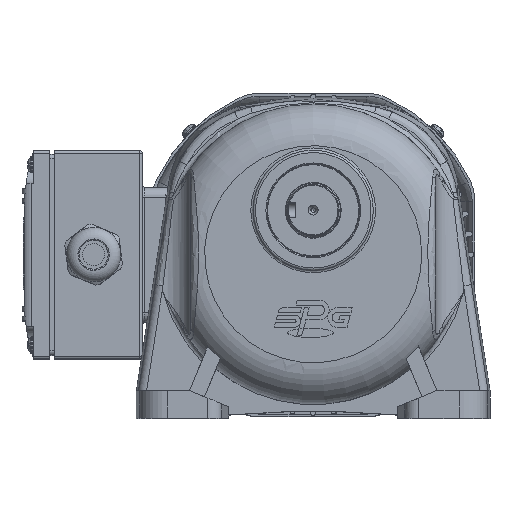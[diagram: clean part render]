
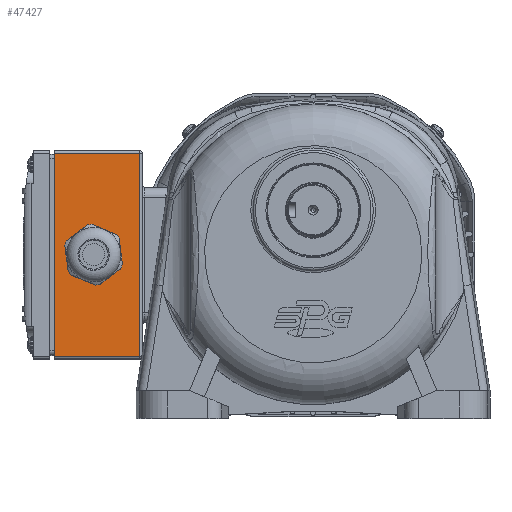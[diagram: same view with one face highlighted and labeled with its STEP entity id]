
A CAD part, top view. The second image highlights one B-rep face of the part: STEP entity #47427.
In plain terms, the highlighted planar face has unit normal (0, 0, 1).
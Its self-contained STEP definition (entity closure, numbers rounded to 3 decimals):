
#1262=LINE('',#70809,#3504);
#1286=LINE('',#70921,#3528);
#1287=LINE('',#70923,#3529);
#1288=LINE('',#70925,#3530);
#1289=LINE('',#70927,#3531);
#1290=LINE('',#70929,#3532);
#1707=LINE('',#72435,#3949);
#1709=LINE('',#72450,#3951);
#1711=LINE('',#72456,#3953);
#1712=LINE('',#72457,#3954);
#3504=VECTOR('',#56432,10.);
#3528=VECTOR('',#56534,10.);
#3529=VECTOR('',#56537,10.);
#3530=VECTOR('',#56540,10.);
#3531=VECTOR('',#56543,10.);
#3532=VECTOR('',#56546,10.);
#3949=VECTOR('',#57693,10.);
#3951=VECTOR('',#57715,10.);
#3953=VECTOR('',#57721,10.);
#3954=VECTOR('',#57722,10.);
#7162=FACE_BOUND('',#11648,.T.);
#8620=FACE_OUTER_BOUND('',#11647,.T.);
#11647=EDGE_LOOP('',(#30761,#30762,#30763,#30764));
#11648=EDGE_LOOP('',(#30765,#30766,#30767,#30768,#30769,#30770,#30771,#30772,
#30773,#30774,#30775,#30776));
#14624=CIRCLE('',#50211,13.);
#14626=CIRCLE('',#50214,13.);
#14628=CIRCLE('',#50217,13.);
#14630=CIRCLE('',#50220,13.);
#14632=CIRCLE('',#50223,13.);
#14634=CIRCLE('',#50226,13.);
#18029=VERTEX_POINT('',#70755);
#18031=VERTEX_POINT('',#70759);
#18033=VERTEX_POINT('',#70764);
#18035=VERTEX_POINT('',#70768);
#18037=VERTEX_POINT('',#70773);
#18039=VERTEX_POINT('',#70777);
#18041=VERTEX_POINT('',#70782);
#18043=VERTEX_POINT('',#70786);
#18045=VERTEX_POINT('',#70791);
#18047=VERTEX_POINT('',#70795);
#18049=VERTEX_POINT('',#70800);
#18051=VERTEX_POINT('',#70804);
#18501=VERTEX_POINT('',#72431);
#18502=VERTEX_POINT('',#72433);
#18505=VERTEX_POINT('',#72449);
#18507=VERTEX_POINT('',#72455);
#22455=EDGE_CURVE('',#18029,#18031,#14624,.T.);
#22459=EDGE_CURVE('',#18033,#18035,#14626,.T.);
#22463=EDGE_CURVE('',#18037,#18039,#14628,.T.);
#22467=EDGE_CURVE('',#18041,#18043,#14630,.T.);
#22471=EDGE_CURVE('',#18045,#18047,#14632,.T.);
#22475=EDGE_CURVE('',#18049,#18051,#14634,.T.);
#22477=EDGE_CURVE('',#18051,#18029,#1262,.T.);
#22526=EDGE_CURVE('',#18031,#18033,#1286,.T.);
#22527=EDGE_CURVE('',#18047,#18049,#1287,.T.);
#22528=EDGE_CURVE('',#18043,#18045,#1288,.T.);
#22529=EDGE_CURVE('',#18039,#18041,#1289,.T.);
#22530=EDGE_CURVE('',#18035,#18037,#1290,.T.);
#23131=EDGE_CURVE('',#18502,#18501,#1707,.T.);
#23138=EDGE_CURVE('',#18501,#18505,#1709,.T.);
#23141=EDGE_CURVE('',#18507,#18502,#1711,.T.);
#23142=EDGE_CURVE('',#18507,#18505,#1712,.T.);
#30761=ORIENTED_EDGE('',*,*,#23131,.F.);
#30762=ORIENTED_EDGE('',*,*,#23141,.F.);
#30763=ORIENTED_EDGE('',*,*,#23142,.T.);
#30764=ORIENTED_EDGE('',*,*,#23138,.F.);
#30765=ORIENTED_EDGE('',*,*,#22475,.T.);
#30766=ORIENTED_EDGE('',*,*,#22477,.T.);
#30767=ORIENTED_EDGE('',*,*,#22455,.T.);
#30768=ORIENTED_EDGE('',*,*,#22526,.T.);
#30769=ORIENTED_EDGE('',*,*,#22459,.T.);
#30770=ORIENTED_EDGE('',*,*,#22530,.T.);
#30771=ORIENTED_EDGE('',*,*,#22463,.T.);
#30772=ORIENTED_EDGE('',*,*,#22529,.T.);
#30773=ORIENTED_EDGE('',*,*,#22467,.T.);
#30774=ORIENTED_EDGE('',*,*,#22528,.T.);
#30775=ORIENTED_EDGE('',*,*,#22471,.T.);
#30776=ORIENTED_EDGE('',*,*,#22527,.T.);
#43497=PLANE('',#50647);
#47427=ADVANCED_FACE('',(#8620,#7162),#43497,.T.);
#50211=AXIS2_PLACEMENT_3D('',#70761,#56387,#56388);
#50214=AXIS2_PLACEMENT_3D('',#70770,#56395,#56396);
#50217=AXIS2_PLACEMENT_3D('',#70779,#56403,#56404);
#50220=AXIS2_PLACEMENT_3D('',#70788,#56411,#56412);
#50223=AXIS2_PLACEMENT_3D('',#70797,#56419,#56420);
#50226=AXIS2_PLACEMENT_3D('',#70806,#56427,#56428);
#50647=AXIS2_PLACEMENT_3D('',#72454,#57719,#57720);
#56387=DIRECTION('center_axis',(0.,0.,
-1.));
#56388=DIRECTION('ref_axis',(-0.795,-0.607,0.));
#56395=DIRECTION('center_axis',(0.,0.,
-1.));
#56396=DIRECTION('ref_axis',(-0.795,-0.607,0.));
#56403=DIRECTION('center_axis',(0.,0.,
-1.));
#56404=DIRECTION('ref_axis',(-0.795,-0.607,0.));
#56411=DIRECTION('center_axis',(0.,0.,
-1.));
#56412=DIRECTION('ref_axis',(-0.795,-0.607,0.));
#56419=DIRECTION('center_axis',(0.,0.,
-1.));
#56420=DIRECTION('ref_axis',(-0.795,-0.607,0.));
#56427=DIRECTION('center_axis',(0.,0.,
-1.));
#56428=DIRECTION('ref_axis',(-0.795,-0.607,0.));
#56432=DIRECTION('',(0.795,0.607,0.));
#56534=DIRECTION('',(0.923,-0.385,0.));
#56537=DIRECTION('',(-0.128,0.992,0.));
#56540=DIRECTION('',(-0.923,0.385,0.));
#56543=DIRECTION('',(-0.795,-0.607,0.));
#56546=DIRECTION('',(0.128,-0.992,0.));
#57693=DIRECTION('',(0.,-1.,0.));
#57715=DIRECTION('',(-1.,0.,0.));
#57719=DIRECTION('center_axis',(0.,0.,
1.));
#57720=DIRECTION('ref_axis',(1.,0.,0.));
#57721=DIRECTION('',(1.,0.,0.));
#57722=DIRECTION('',(0.,-1.,0.));
#70755=CARTESIAN_POINT('',(-124.898,2.212,-114.75));
#70759=CARTESIAN_POINT('',(-122.328,2.544,-114.75));
#70761=CARTESIAN_POINT('Origin',(-121.954,-10.451,-114.75));
#70764=CARTESIAN_POINT('',(-112.46,-1.57,-114.75));
#70768=CARTESIAN_POINT('',(-110.887,-3.629,-114.75));
#70770=CARTESIAN_POINT('Origin',(-121.954,-10.451,-114.75));
#70773=CARTESIAN_POINT('',(-109.516,-14.232,-114.75));
#70777=CARTESIAN_POINT('',(-110.513,-16.624,-114.75));
#70779=CARTESIAN_POINT('Origin',(-121.954,-10.451,-114.75));
#70782=CARTESIAN_POINT('',(-119.01,-23.113,-114.75));
#70786=CARTESIAN_POINT('',(-121.579,-23.445,-114.75));
#70788=CARTESIAN_POINT('Origin',(-121.954,-10.451,-114.75));
#70791=CARTESIAN_POINT('',(-131.448,-19.331,-114.75));
#70795=CARTESIAN_POINT('',(-133.02,-17.272,-114.75));
#70797=CARTESIAN_POINT('Origin',(-121.954,-10.451,-114.75));
#70800=CARTESIAN_POINT('',(-134.392,-6.669,-114.75));
#70804=CARTESIAN_POINT('',(-133.395,-4.277,-114.75));
#70806=CARTESIAN_POINT('Origin',(-121.954,-10.451,-114.75));
#70809=CARTESIAN_POINT('',(-108.942,14.397,-114.75));
#70921=CARTESIAN_POINT('',(-113.282,-1.227,-114.75));
#70923=CARTESIAN_POINT('',(-136.834,12.216,-114.75));
#70925=CARTESIAN_POINT('',(-128.717,-20.47,-114.75));
#70927=CARTESIAN_POINT('',(-99.995,-8.591,-114.75));
#70929=CARTESIAN_POINT('',(-112.452,8.471,-114.75));
#72431=CARTESIAN_POINT('',(-101.954,-54.451,-114.75));
#72433=CARTESIAN_POINT('',(-101.954,33.549,-114.75));
#72435=CARTESIAN_POINT('',(-101.954,12.049,-114.75));
#72449=CARTESIAN_POINT('',(-138.954,-54.451,-114.75));
#72450=CARTESIAN_POINT('',(-100.954,-54.451,-114.75));
#72454=CARTESIAN_POINT('Origin',(-100.954,34.549,-114.75));
#72455=CARTESIAN_POINT('',(-138.954,33.549,-114.75));
#72456=CARTESIAN_POINT('',(-100.954,33.549,-114.75));
#72457=CARTESIAN_POINT('',(-138.954,-55.451,-114.75));
